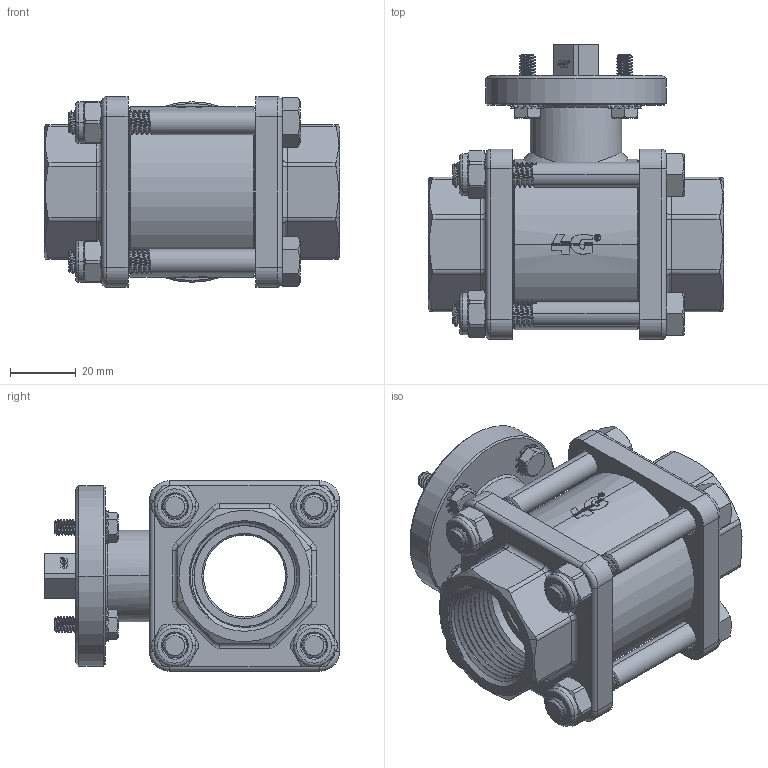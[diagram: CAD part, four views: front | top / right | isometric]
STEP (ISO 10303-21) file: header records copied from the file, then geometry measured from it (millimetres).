
FILE_DESCRIPTION((''),'2;1');
FILE_NAME('50300162610_SW0001','2024-12-16T08:26:48',('tecnico2'),('CDM Tecnoconsulting'),'CREO PARAMETRIC BY PTC INC, 2024063','CREO PARAMETRIC BY PTC INC, 2024063','');
FILE_SCHEMA(('CONFIG_CONTROL_DESIGN','SHAPE_APPEARANCE_LAYERS_GROUPS'));
Products named in the file (1): 50300162610_SW0001
Bounding box: 90 x 90 x 58 mm (x, y, z)
Volume: 162645.1 mm3; surface area: 72973.7 mm2
Topology: 2 solids, 2 shells, 2018 faces, 5743 edges, 3680 vertices
Faces by surface type: plane 684, cylinder 621, bspline 225, cone 224, extrusion 166, torus 94, sphere 4
Entity records: 182882 total; most frequent: CARTESIAN_POINT 113779, ORIENTED_EDGE 11474, DIRECTION 8141, PRESENTATION_STYLE_ASSIGNMENT 6264, STYLED_ITEM 5850, CURVE_STYLE 5848, EDGE_CURVE 5737, VERTEX_POINT 3680
